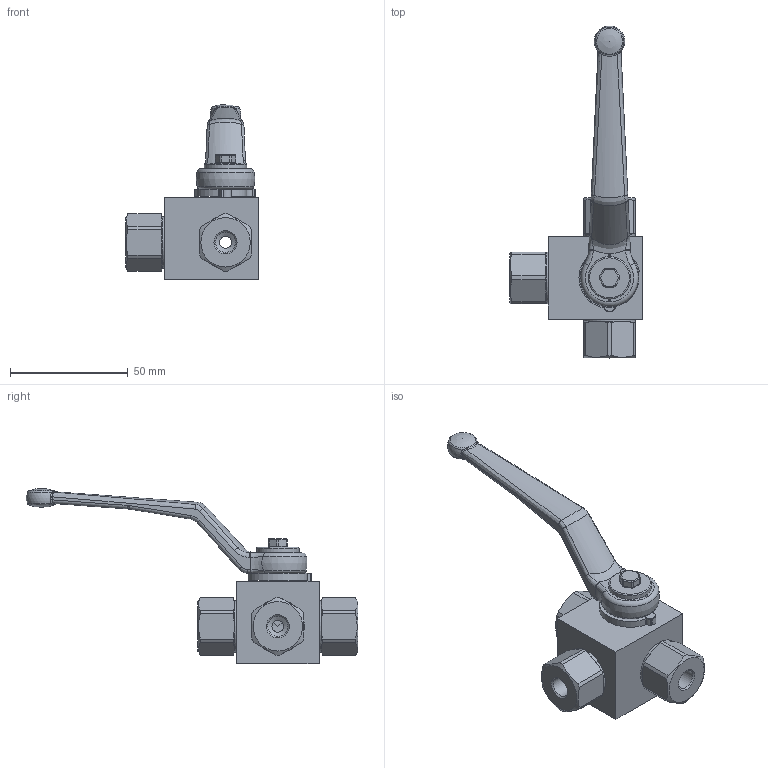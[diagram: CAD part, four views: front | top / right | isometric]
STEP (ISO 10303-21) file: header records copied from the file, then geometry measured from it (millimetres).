
FILE_DESCRIPTION( ( 'Unknown' ), '1' );
FILE_NAME( 'H:/PISTER/3D-MODELLE/BK3-Edelstahl stp/BK3-Edelst DN4 G1_8.stp', 'Unknown', ( 'Unknown' ), ( 'Unknown' ), 'PSStep 14.0', 'Unknown', ' ' );
FILE_SCHEMA( ( 'AUTOMOTIVE_DESIGN { 1 0 10303 214 1 1 1 1 }' ) );
Length unit declared in the file: millimetre
Products named in the file (11): Assem1; 56-032-337-oa5; 09-09-003; 58-28740-16-oa6; 58-0440-009; 04-004-013-oa7; 04-004-013-oa8; 04-004-013-oa9; 06-008-007-oa11; Griff_SW9; 01-008-020-oa12
Assembly tree (10 placements, depth 2):
  Assem1
    56-032-337-oa5
    09-09-003
    58-28740-16-oa6
    58-0440-009
    04-004-013-oa7
    04-004-013-oa8
    04-004-013-oa9
    06-008-007-oa11
    Griff_SW9
    01-008-020-oa12
Bounding box: 56.5 x 141 x 74.4 mm (x, y, z)
Volume: 65007.6 mm3; surface area: 27014.1 mm2
Topology: 10 solids, 10 shells, 359 faces, 896 edges, 560 vertices
Faces by surface type: cylinder 125, plane 117, cone 43, bspline 36, torus 34, sphere 4
Full cylindrical faces by diameter (mm): 4.134 x1, 4.98 x1, 5 x4, 5.8 x1, 7 x1, 8.566 x6, 14 x2, 17.1 x1, 18 x1, 18.376 x1, 18.5 x1, 20 x1, 20.3 x1, 21 x4, 22 x3, 22.5 x3
Entity records: 15016 total; most frequent: CARTESIAN_POINT 4088, DIRECTION 1635, ORIENTED_EDGE 1584, EDGE_CURVE 792, AXIS2_PLACEMENT_3D 670, VERTEX_POINT 524, EDGE_LOOP 448, FACE_OUTER_BOUND 401
